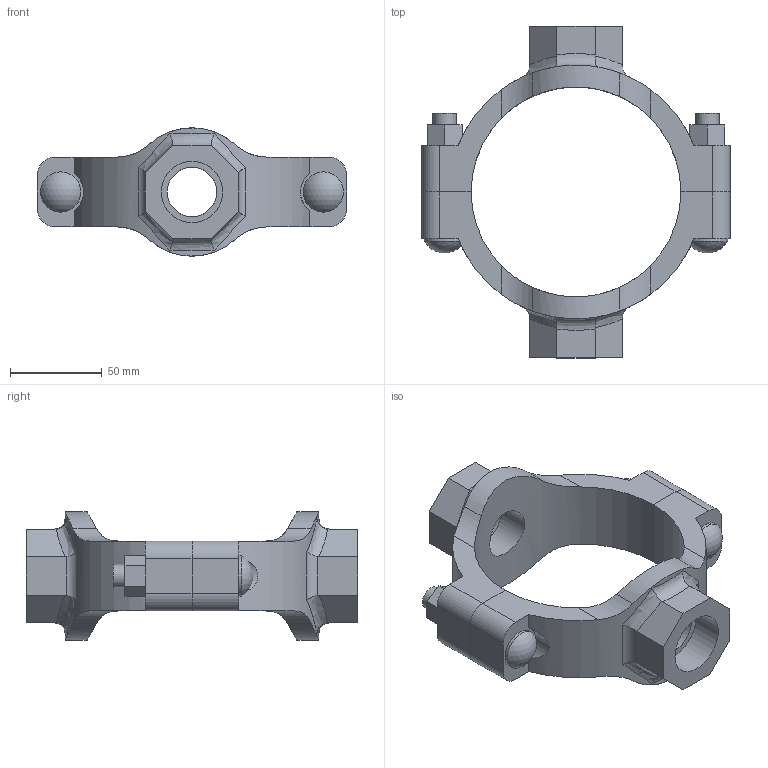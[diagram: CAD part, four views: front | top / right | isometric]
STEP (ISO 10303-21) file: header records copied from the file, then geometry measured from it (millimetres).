
FILE_DESCRIPTION(/* description */ ('VIC MECH-T BRANCH OUTLET CROSS STYLE 920N (THD)','CAx-IF Rec.Pracs.---Representation and Presentation of Product Manufacturing Information (PMI)---4.0---2014-10-13'),/* implementation_level */ '2;1');
FILE_NAME(/* name */ 'C:\Users\Vjadhav\AppData\Roaming\Autodesk\ApplicationPlugins\Back Up\Victaulic_IPS_Mechanical-Cross Outlet_Style 920N (FPT)\Victaulic_IPS_Mechanical-Cross Outlet_04.0x01.0x01.0 (100x25x25).stp',/* time_stamp */ '2020-08-06T18:58:18+05:00',/* author */ ('Vjadhav'),/* organization */ ('Victaulic'),/* preprocessor_version */ 'ST-DEVELOPER v17.2',/* originating_system */ 'Autodesk Inventor 2019',/* authorisation */ '');
FILE_SCHEMA (('AP242_MANAGED_MODEL_BASED_3D_ENGINEERING_MIM_LF { 1 0 10303 442 1 1 4 }'));
Length unit declared in the file: inch
Products named in the file (3): 920NT-04.0x01.0x01.0; 920NT-04.0x01.0; 920NT-04.0x01.0_1
Assembly tree (2 placements, depth 2):
  920NT-04.0x01.0x01.0
    920NT-04.0x01.0
    920NT-04.0x01.0_1
Bounding box: 168.4 x 180.85 x 69.82 mm (x, y, z)
Volume: 324250.5 mm3; surface area: 79114.4 mm2
Topology: 2 solids, 2 shells, 132 faces, 350 edges, 236 vertices
Faces by surface type: plane 68, cylinder 50, bspline 8, torus 4, sphere 2
Full cylindrical faces by diameter (mm): 12.7 x4, 21.982 x2, 26.987 x2, 33.401 x2
Entity records: 5234 total; most frequent: CARTESIAN_POINT 1721, ORIENTED_EDGE 700, DIRECTION 648, EDGE_CURVE 350, VERTEX_POINT 236, AXIS2_PLACEMENT_3D 231, LINE 186, VECTOR 186
